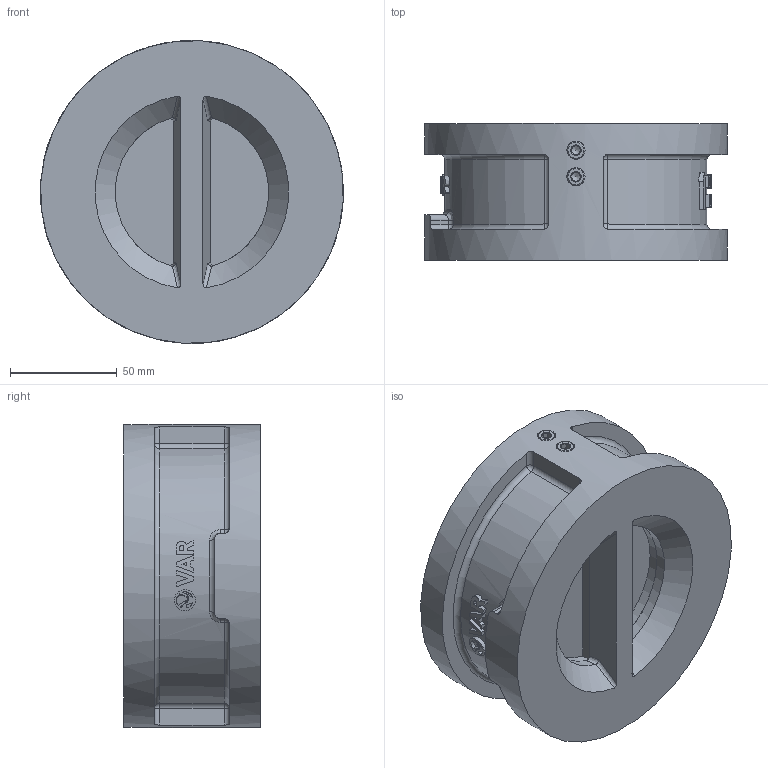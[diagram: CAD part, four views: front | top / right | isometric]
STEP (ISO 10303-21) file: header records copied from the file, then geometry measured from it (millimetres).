
FILE_DESCRIPTION(('STEP AP203'), '1');
FILE_NAME('VAR ZETKA 钺疣蝽 觌囡囗', '', ('UNSPECIFIED'), ('UNSPECIFIED'), 'C3D Converter', 'C3D Toolkit', '');
FILE_SCHEMA(('CONFIG_CONTROL_DESIGN'));
Length unit declared in the file: millimetre
Assembly tree (18 placements, depth 2):
  (unnamed)
    (unnamed)
    (unnamed)  x2
    (unnamed)  x4
    (unnamed)
    (unnamed)  x2
    (unnamed)  x2
    (unnamed)  x2
    (unnamed)  x2
    (unnamed)  x2
Bounding box: 141.94 x 64 x 142 mm (x, y, z)
Volume: 580072.3 mm3; surface area: 126785.6 mm2
Topology: 32 solids, 32 shells, 568 faces, 1417 edges, 921 vertices
Faces by surface type: plane 237, extrusion 152, cylinder 115, cone 22, bspline 20, torus 12, sphere 10
Full cylindrical faces by diameter (mm): 1.5 x2, 4 x4, 5 x8, 7.65 x16, 8.5 x8, 9.868 x1, 15.15 x6, 86 x1, 94 x2, 142 x1
Entity records: 31978 total; most frequent: CARTESIAN_POINT 18999, ORIENTED_EDGE 2158, DIRECTION 1618, EDGE_CURVE 1079, VERTEX_POINT 727, VECTOR 582, EDGE_LOOP 542, B_SPLINE_CURVE_WITH_KNOTS 521
